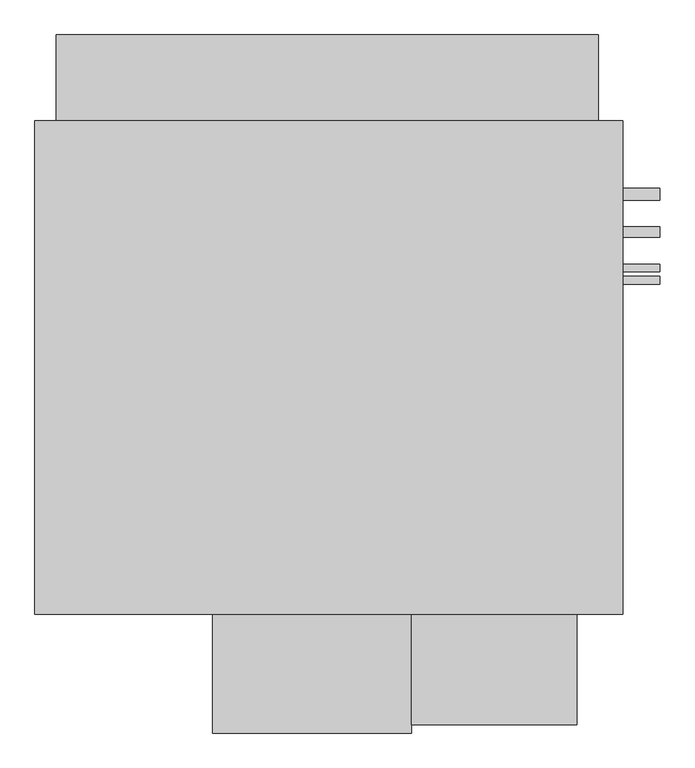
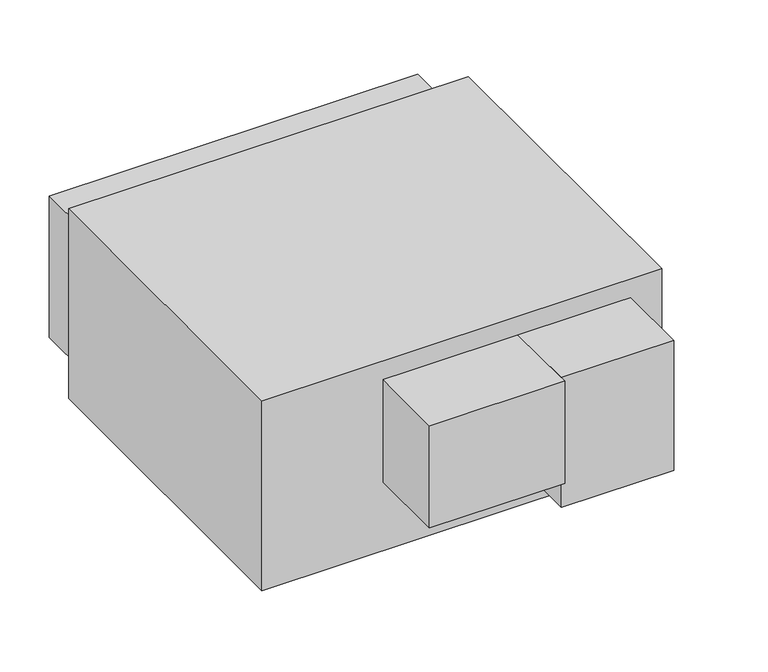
"""IFC4 building model written with IfcOpenShell, lengths in millimetres: proxy geometry, Horizontal_Direct_Drive_Blower_Coil_Unit_-_42DHA_-_CARRIER_-_4-Pipe_RH_2022 : Size 20 - 460v/60Hz/3Ph - 6/2 Coil."""

from ifc_helpers import new_model, si_unit, point, frame, frame_2d, origin, place, context, project, spatial, polyline, circle_curve, trimmed, segment, composite_curve, outline, extrude, source, transform, mapped, element, save


def mechanical_equipment_6f3378f6(model_context):
    return source(origin(), model_context, "Body", "SweptSolid", [
        extrude(outline(polyline([(152.4, 492.125), (152.4, -530.225), (-1066.8, -530.225), (-1066.8, 492.125), (152.4, 492.125)])), frame((0.0, 0.0, -612.7558174), z_axis=(0.0, 0.0, 1.0), x_axis=(1.0, 0.0, 0.0)), (0.0, 0.0, 1.0), 612.7558174),
        extrude(outline(polyline([(57.15, -758.825), (-285.75, -758.825), (-285.75, -530.225), (57.15, -530.225), (57.15, -758.825)])), frame((0.0, 0.0, -479.4058174), z_axis=(0.0, 0.0, 1.0), x_axis=(1.0, 0.0, 0.0)), (0.0, 0.0, 1.0), 419.1),
        extrude(outline(composite_curve([segment(trimmed(circle_curve(frame_2d((339.725, -180.7500418)), 12.7), [point((352.425, -180.7500418))], [point((327.025, -180.7500418))], False, "CARTESIAN"), True, "CONTINUOUS"), segment(trimmed(circle_curve(frame_2d((339.725, -180.7500418)), 12.7), [point((327.025, -180.7500418))], [point((352.425, -180.7500418))], False, "CARTESIAN"), True, "CONTINUOUS")], self_intersect=False)), frame((152.4, 0.0, 0.0), z_axis=(1.0, 0.0, 0.0), x_axis=(0.0, 1.0, 0.0)), (0.0, 0.0, 1.0), 76.2),
        extrude(outline(composite_curve([segment(trimmed(circle_curve(frame_2d((339.725, -485.7558174)), 12.7), [point((352.425, -485.7558174))], [point((327.025, -485.7558174))], False, "CARTESIAN"), True, "CONTINUOUS"), segment(trimmed(circle_curve(frame_2d((339.725, -485.7558174)), 12.7), [point((327.025, -485.7558174))], [point((352.425, -485.7558174))], False, "CARTESIAN"), True, "CONTINUOUS")], self_intersect=False)), frame((152.4, 0.0, 0.0), z_axis=(1.0, 0.0, 0.0), x_axis=(0.0, 1.0, 0.0)), (0.0, 0.0, 1.0), 76.2),
        extrude(outline(composite_curve([segment(trimmed(circle_curve(frame_2d((261.7604089, -568.3058174)), 11.1125), [point((272.8729089, -568.3058174))], [point((250.6479089, -568.3058174))], False, "CARTESIAN"), True, "CONTINUOUS"), segment(trimmed(circle_curve(frame_2d((261.7604089, -568.3058174)), 11.1125), [point((250.6479089, -568.3058174))], [point((272.8729089, -568.3058174))], False, "CARTESIAN"), True, "CONTINUOUS")], self_intersect=False)), frame((152.4, 0.0, 0.0), z_axis=(1.0, 0.0, 0.0), x_axis=(0.0, 1.0, 0.0)), (0.0, 0.0, 1.0), 76.2),
        extrude(outline(composite_curve([segment(trimmed(circle_curve(frame_2d((187.325, -231.7558174)), 7.9375), [point((195.2625, -231.7558174))], [point((179.3875, -231.7558174))], False, "CARTESIAN"), True, "CONTINUOUS"), segment(trimmed(circle_curve(frame_2d((187.325, -231.7558174)), 7.9375), [point((179.3875, -231.7558174))], [point((195.2625, -231.7558174))], False, "CARTESIAN"), True, "CONTINUOUS")], self_intersect=False)), frame((152.4, 0.0, 0.0), z_axis=(1.0, 0.0, 0.0), x_axis=(0.0, 1.0, 0.0)), (0.0, 0.0, 1.0), 76.2),
        extrude(outline(composite_curve([segment(trimmed(circle_curve(frame_2d((161.925, -434.9558174)), 7.9375), [point((169.8625, -434.9558174))], [point((153.9875, -434.9558174))], False, "CARTESIAN"), True, "CONTINUOUS"), segment(trimmed(circle_curve(frame_2d((161.925, -434.9558174)), 7.9375), [point((153.9875, -434.9558174))], [point((169.8625, -434.9558174))], False, "CARTESIAN"), True, "CONTINUOUS")], self_intersect=False)), frame((152.4, 0.0, 0.0), z_axis=(1.0, 0.0, 0.0), x_axis=(0.0, 1.0, 0.0)), (0.0, 0.0, 1.0), 76.2),
        extrude(outline(polyline([(-1022.35, 669.925), (101.6, 669.925), (101.6, 492.125), (-1022.35, 492.125), (-1022.35, 669.925)])), frame((0.0, 0.0, -539.7308174), z_axis=(0.0, 0.0, 1.0), x_axis=(1.0, 0.0, 0.0)), (0.0, 0.0, 1.0), 457.2),
        extrude(outline(polyline([(-285.75, -776.2875), (-698.5, -776.2875), (-698.5, -530.225), (-285.75, -530.225), (-285.75, -776.2875)])), frame((0.0, 0.0, -390.5058174), z_axis=(0.0, 0.0, 1.0), x_axis=(1.0, 0.0, 0.0)), (0.0, 0.0, 1.0), 330.2),
    ])


if __name__ == "__main__":
    model = new_model("IFC4")
    model_context = context("Model", 3, world=origin())
    ifc_project = project(units=[si_unit("LENGTHUNIT", "METRE", prefix="MILLI")], contexts=[model_context])
    site = spatial("IfcSite", under=ifc_project)
    building = spatial("IfcBuilding", under=site)
    placement = place(None, origin())
    mechanical_equipment_shape = mechanical_equipment_6f3378f6(model_context)
    element("IfcBuildingElementProxy", 1, Name="Horizontal_Direct_Drive_Blower_Coil_Unit_-_42DHA_-_CARRIER_-_4-Pipe_RH_2022 : Size 20 - 460v/60Hz/3Ph - 6/2 Coil", ObjectType="Horizontal_Direct_Drive_Blower_Coil_Unit_-_42DHA_-_CARRIER_-_4-Pipe_RH_2022 : Size 20 - 460v/60Hz/3Ph - 6/2 Coil", at=placement, inside=building, context=model_context, shape_type="MappedRepresentation", body=[
        mapped(mechanical_equipment_shape, transform((0.0, 0.0, 0.0), x_axis=(1.0, 0.0, 0.0), y_axis=(0.0, 1.0, 0.0), z_axis=(0.0, 0.0, 1.0))),
    ])
    save(model, "model.ifc")
